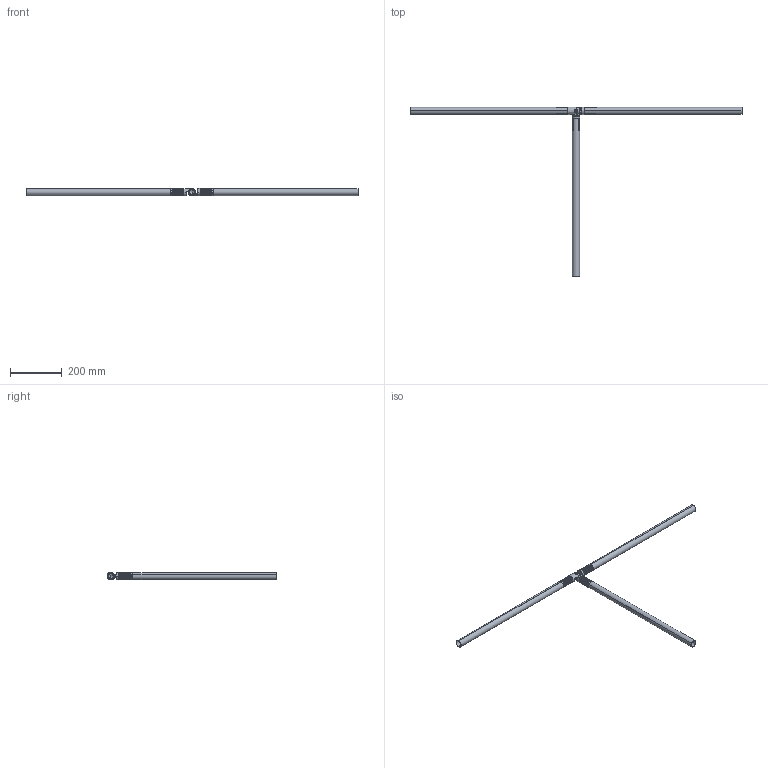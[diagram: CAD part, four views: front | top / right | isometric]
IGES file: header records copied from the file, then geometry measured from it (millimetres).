
Start section: SolidWorks IGES file using analytic representation for surfaces
Global section: file name: \\SERVER3\Design\_NEWDE~1\_DESIG~1\AAI\MODULA~1\SOLIDW~1\DEMONS~1\25DBF2~1.ASS\MODULA~1\34EB7~1.ANG\ANGULA~2\Single Sided to Male to Single Sided.IGS; native system: SolidWorks 2013; preprocessor: SolidWorks 2013; author: tbraun; date: 130819.115810; units: inch
Bounding box: 1280.97 x 654.77 x 30.45 mm (x, y, z)
Surface area: 342530.5 mm2 (no closed solid volume)
Topology: 0 solids, 0 shells, 892 faces, 11533 edges, 11526 vertices
Faces by surface type: revolution 518, bspline 374
